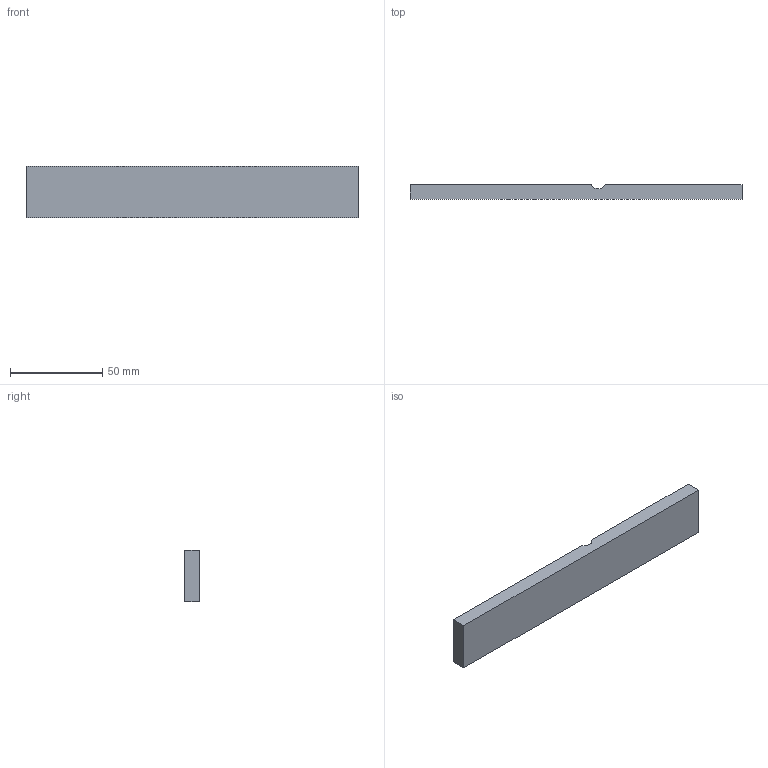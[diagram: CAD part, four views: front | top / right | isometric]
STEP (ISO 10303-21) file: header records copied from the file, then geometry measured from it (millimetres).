
FILE_DESCRIPTION(('Open CASCADE Model'),'2;1');
FILE_NAME('Open CASCADE Shape Model','2026-10-04T01:02:33',('Author'),( 'Open CASCADE'),'Open CASCADE STEP processor 8.0','Open CASCADE 8.0' ,'Unknown');
FILE_SCHEMA(('AUTOMOTIVE_DESIGN { 1 0 10303 214 1 1 1 1 }'));
Length unit declared in the file: millimetre
Products named in the file (1): Open CASCADE STEP translator 8.0 325
Bounding box: 180 x 8 x 28 mm (x, y, z)
Volume: 39970.4 mm3; surface area: 13431.6 mm2
Topology: 1 solids, 1 shells, 8 faces, 18 edges, 12 vertices
Faces by surface type: plane 7, cylinder 1
Entity records: 468 total; most frequent: CARTESIAN_POINT 75, DIRECTION 74, LINE 50, VECTOR 50, ORIENTED_EDGE 36, PCURVE 36, DEFINITIONAL_REPRESENTATION 36, EDGE_CURVE 18
